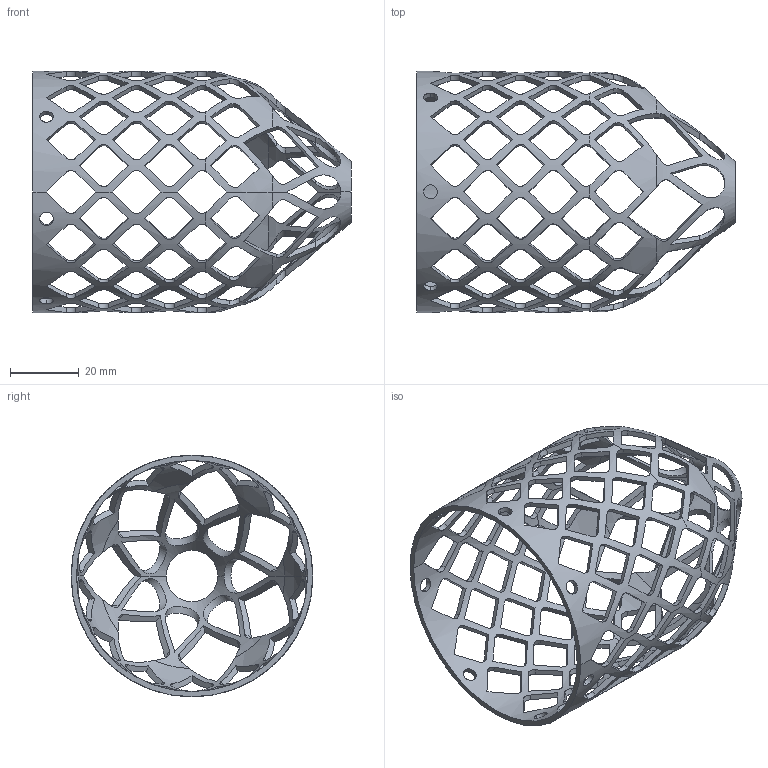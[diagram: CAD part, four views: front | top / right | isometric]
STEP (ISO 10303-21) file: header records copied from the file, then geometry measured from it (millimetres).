
FILE_DESCRIPTION((''),'2;1');
FILE_NAME('SIETKA','2023-12-23T10:30:11',('pavol'),(''),'CREO PARAMETRIC BY PTC INC, 2018100','CREO PARAMETRIC BY PTC INC, 2018100','');
FILE_SCHEMA(('CONFIG_CONTROL_DESIGN'));
Length unit declared in the file: millimetre
Products named in the file (1): SIETKA
Bounding box: 92.31 x 70 x 70 mm (x, y, z)
Volume: 10446.2 mm3; surface area: 20677.6 mm2
Topology: 1 solids, 1 shells, 598 faces, 1913 edges, 1264 vertices
Faces by surface type: plane 379, cylinder 209, cone 6, bspline 4
Entity records: 25944 total; most frequent: CARTESIAN_POINT 11102, ORIENTED_EDGE 3826, DIRECTION 1915, EDGE_CURVE 1913, VERTEX_POINT 1264, B_SPLINE_CURVE_WITH_KNOTS 1248, EDGE_LOOP 757, AXIS2_PLACEMENT_3D 656
